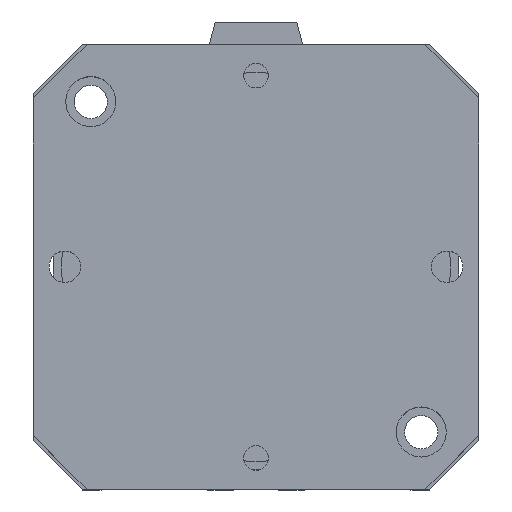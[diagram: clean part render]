
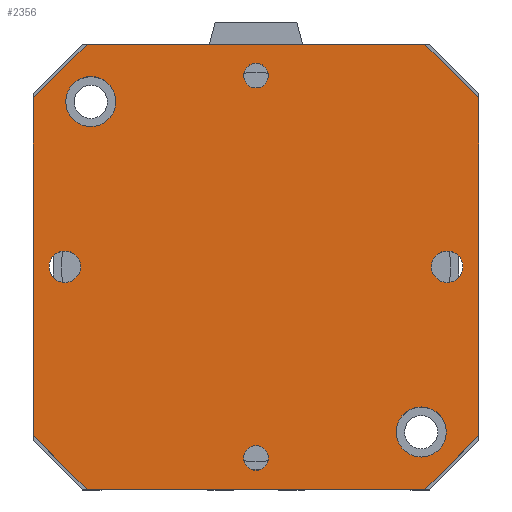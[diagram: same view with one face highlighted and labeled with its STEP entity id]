
A CAD part, top view. The second image highlights one B-rep face of the part: STEP entity #2356.
In plain terms, the highlighted planar face has unit normal (0, 0, 1).
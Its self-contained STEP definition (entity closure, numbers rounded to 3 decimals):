
#222=LINE('',#3877,#430);
#224=LINE('',#3881,#432);
#226=LINE('',#3885,#434);
#228=LINE('',#3889,#436);
#230=LINE('',#3893,#438);
#232=LINE('',#3897,#440);
#234=LINE('',#3901,#442);
#236=LINE('',#3904,#444);
#430=VECTOR('',#3198,91.);
#432=VECTOR('',#3202,20.506);
#434=VECTOR('',#3206,91.);
#436=VECTOR('',#3210,20.506);
#438=VECTOR('',#3214,91.);
#440=VECTOR('',#3218,20.506);
#442=VECTOR('',#3222,91.);
#444=VECTOR('',#3226,20.506);
#538=PLANE('',#2582);
#625=FACE_BOUND('',#955,.T.);
#626=FACE_BOUND('',#956,.T.);
#627=FACE_BOUND('',#957,.T.);
#628=FACE_BOUND('',#958,.T.);
#629=FACE_BOUND('',#959,.T.);
#630=FACE_BOUND('',#960,.T.);
#631=FACE_BOUND('',#961,.T.);
#955=EDGE_LOOP('',(#2136));
#956=EDGE_LOOP('',(#2137));
#957=EDGE_LOOP('',(#2138));
#958=EDGE_LOOP('',(#2139));
#959=EDGE_LOOP('',(#2140));
#960=EDGE_LOOP('',(#2141));
#961=EDGE_LOOP('',(#2142,#2143,#2144,#2145,#2146,#2147,#2148,#2149));
#1034=CIRCLE('',#2538,3.324);
#1036=CIRCLE('',#2541,3.324);
#1041=CIRCLE('',#2549,4.25);
#1045=CIRCLE('',#2556,4.25);
#1054=CIRCLE('',#2571,6.75);
#1055=CIRCLE('',#2573,6.75);
#1234=VERTEX_POINT('',#3795);
#1236=VERTEX_POINT('',#3800);
#1241=VERTEX_POINT('',#3813);
#1245=VERTEX_POINT('',#3824);
#1264=VERTEX_POINT('',#3868);
#1265=VERTEX_POINT('',#3871);
#1266=VERTEX_POINT('',#3874);
#1267=VERTEX_POINT('',#3876);
#1268=VERTEX_POINT('',#3880);
#1269=VERTEX_POINT('',#3884);
#1270=VERTEX_POINT('',#3888);
#1271=VERTEX_POINT('',#3892);
#1272=VERTEX_POINT('',#3896);
#1273=VERTEX_POINT('',#3900);
#1521=EDGE_CURVE('',#1234,#1234,#1034,.T.);
#1523=EDGE_CURVE('',#1236,#1236,#1036,.T.);
#1528=EDGE_CURVE('',#1241,#1241,#1041,.T.);
#1532=EDGE_CURVE('',#1245,#1245,#1045,.T.);
#1551=EDGE_CURVE('',#1264,#1264,#1054,.T.);
#1552=EDGE_CURVE('',#1265,#1265,#1055,.T.);
#1554=EDGE_CURVE('',#1267,#1266,#222,.T.);
#1556=EDGE_CURVE('',#1268,#1267,#224,.T.);
#1558=EDGE_CURVE('',#1269,#1268,#226,.T.);
#1560=EDGE_CURVE('',#1270,#1269,#228,.T.);
#1562=EDGE_CURVE('',#1271,#1270,#230,.T.);
#1564=EDGE_CURVE('',#1272,#1271,#232,.T.);
#1566=EDGE_CURVE('',#1273,#1272,#234,.T.);
#1568=EDGE_CURVE('',#1266,#1273,#236,.T.);
#2136=ORIENTED_EDGE('',*,*,#1521,.T.);
#2137=ORIENTED_EDGE('',*,*,#1523,.T.);
#2138=ORIENTED_EDGE('',*,*,#1528,.T.);
#2139=ORIENTED_EDGE('',*,*,#1532,.T.);
#2140=ORIENTED_EDGE('',*,*,#1551,.T.);
#2141=ORIENTED_EDGE('',*,*,#1552,.T.);
#2142=ORIENTED_EDGE('',*,*,#1568,.T.);
#2143=ORIENTED_EDGE('',*,*,#1566,.T.);
#2144=ORIENTED_EDGE('',*,*,#1564,.T.);
#2145=ORIENTED_EDGE('',*,*,#1562,.T.);
#2146=ORIENTED_EDGE('',*,*,#1560,.T.);
#2147=ORIENTED_EDGE('',*,*,#1558,.T.);
#2148=ORIENTED_EDGE('',*,*,#1556,.T.);
#2149=ORIENTED_EDGE('',*,*,#1554,.T.);
#2356=ADVANCED_FACE('',(#625,#626,#627,#628,#629,#630,#631),#538,.T.);
#2538=AXIS2_PLACEMENT_3D('',#3796,#3113,#3114);
#2541=AXIS2_PLACEMENT_3D('',#3801,#3119,#3120);
#2549=AXIS2_PLACEMENT_3D('',#3814,#3135,#3136);
#2556=AXIS2_PLACEMENT_3D('',#3825,#3149,#3150);
#2571=AXIS2_PLACEMENT_3D('',#3869,#3189,#3190);
#2573=AXIS2_PLACEMENT_3D('',#3872,#3193,#3194);
#2582=AXIS2_PLACEMENT_3D('',#3905,#3227,#3228);
#3113=DIRECTION('center_axis',(0.,0.,-1.));
#3114=DIRECTION('ref_axis',(1.,0.,0.));
#3119=DIRECTION('center_axis',(0.,0.,-1.));
#3120=DIRECTION('ref_axis',(1.,0.,0.));
#3135=DIRECTION('center_axis',(0.,0.,-1.));
#3136=DIRECTION('ref_axis',(1.,0.,0.));
#3149=DIRECTION('center_axis',(0.,0.,-1.));
#3150=DIRECTION('ref_axis',(1.,0.,0.));
#3189=DIRECTION('center_axis',(0.,0.,-1.));
#3190=DIRECTION('ref_axis',(-1.,0.,0.));
#3193=DIRECTION('center_axis',(0.,0.,-1.));
#3194=DIRECTION('ref_axis',(-1.,0.,0.));
#3198=DIRECTION('',(0.,1.,0.));
#3202=DIRECTION('',(0.707,0.707,0.));
#3206=DIRECTION('',(1.,0.,0.));
#3210=DIRECTION('',(0.707,-0.707,0.));
#3214=DIRECTION('',(0.,-1.,0.));
#3218=DIRECTION('',(-0.707,-0.707,0.));
#3222=DIRECTION('',(-1.,0.,0.));
#3226=DIRECTION('',(-0.707,0.707,0.));
#3227=DIRECTION('center_axis',(0.,0.,1.));
#3228=DIRECTION('ref_axis',(1.,0.,0.));
#3795=CARTESIAN_POINT('',(-54.824,0.,45.75));
#3796=CARTESIAN_POINT('Origin',(-51.5,0.,45.75));
#3800=CARTESIAN_POINT('',(48.177,0.,45.75));
#3801=CARTESIAN_POINT('Origin',(51.5,0.,45.75));
#3813=CARTESIAN_POINT('',(-4.25,51.5,45.75));
#3814=CARTESIAN_POINT('Origin',(0.,51.5,45.75));
#3824=CARTESIAN_POINT('',(-4.25,-51.5,45.75));
#3825=CARTESIAN_POINT('Origin',(0.,-51.5,45.75));
#3868=CARTESIAN_POINT('',(-37.75,-44.5,45.75));
#3869=CARTESIAN_POINT('Origin',(-44.5,-44.5,45.75));
#3871=CARTESIAN_POINT('',(51.25,44.5,45.75));
#3872=CARTESIAN_POINT('Origin',(44.5,44.5,45.75));
#3874=CARTESIAN_POINT('',(60.,45.5,45.75));
#3876=CARTESIAN_POINT('',(60.,-45.5,45.75));
#3877=CARTESIAN_POINT('',(60.,45.5,45.75));
#3880=CARTESIAN_POINT('',(45.5,-60.,45.75));
#3881=CARTESIAN_POINT('',(60.,-45.5,45.75));
#3884=CARTESIAN_POINT('',(-45.5,-60.,45.75));
#3885=CARTESIAN_POINT('',(45.5,-60.,45.75));
#3888=CARTESIAN_POINT('',(-60.,-45.5,45.75));
#3889=CARTESIAN_POINT('',(-45.5,-60.,45.75));
#3892=CARTESIAN_POINT('',(-60.,45.5,45.75));
#3893=CARTESIAN_POINT('',(-60.,-45.5,45.75));
#3896=CARTESIAN_POINT('',(-45.5,60.,45.75));
#3897=CARTESIAN_POINT('',(-60.,45.5,45.75));
#3900=CARTESIAN_POINT('',(45.5,60.,45.75));
#3901=CARTESIAN_POINT('',(-45.5,60.,45.75));
#3904=CARTESIAN_POINT('',(45.5,60.,45.75));
#3905=CARTESIAN_POINT('Origin',(0.,0.,45.75));
